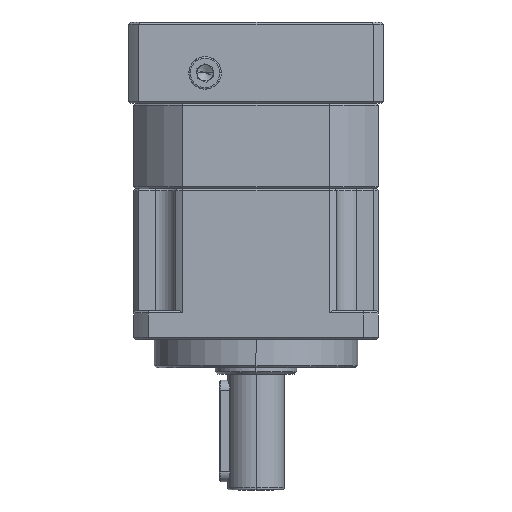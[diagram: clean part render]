
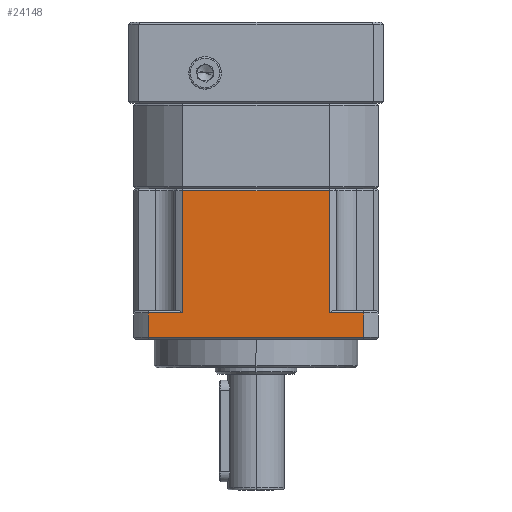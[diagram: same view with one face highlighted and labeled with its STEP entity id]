
A CAD part, left-side view. The second image highlights one B-rep face of the part: STEP entity #24148.
In plain terms, the highlighted planar face has unit normal (-1, 0, 0).
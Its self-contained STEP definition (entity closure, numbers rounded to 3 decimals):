
#211 = CARTESIAN_POINT ( 'NONE',  ( -62.293, -19.087, 111.002 ) ) ;
#816 = EDGE_CURVE ( 'NONE', #52688, #96927, #25697, .T. ) ;
#5810 = CARTESIAN_POINT ( 'NONE',  ( -62.293, -15.545, 80.502 ) ) ;
#6557 = CARTESIAN_POINT ( 'NONE',  ( -62.293, 28.941, 80.502 ) ) ;
#8005 = CARTESIAN_POINT ( 'NONE',  ( -62.293, 37.37, 111.002 ) ) ;
#8380 = DIRECTION ( 'NONE',  ( 0., 0., -1. ) ) ;
#8716 = CARTESIAN_POINT ( 'NONE',  ( -62.293, -19.087, 80.502 ) ) ;
#9077 = DIRECTION ( 'NONE',  ( 0., -1., 0. ) ) ;
#10337 = CARTESIAN_POINT ( 'NONE',  ( -62.293, 28.941, 111.002 ) ) ;
#11004 = LINE ( 'NONE', #30989, #32592 ) ;
#12243 = ORIENTED_EDGE ( 'NONE', *, *, #26304, .F. ) ;
#13672 = DIRECTION ( 'NONE',  ( 0., 1., 0. ) ) ;
#17891 = LINE ( 'NONE', #10337, #101799 ) ;
#18150 = DIRECTION ( 'NONE',  ( 0., 0., -1. ) ) ;
#24148 = ADVANCED_FACE ( 'NONE', ( #41703 ), #56752, .F. ) ;
#25288 = LINE ( 'NONE', #66426, #44342 ) ;
#25697 = LINE ( 'NONE', #8005, #49863 ) ;
#26304 = EDGE_CURVE ( 'NONE', #28815, #60897, #25288, .T. ) ;
#28815 = VERTEX_POINT ( 'NONE', #65783 ) ;
#30795 = AXIS2_PLACEMENT_3D ( 'NONE', #211, #57127, #8380 ) ;
#30989 = CARTESIAN_POINT ( 'NONE',  ( -62.293, -19.087, 80.502 ) ) ;
#32592 = VECTOR ( 'NONE', #87863, 1000. ) ;
#34932 = DIRECTION ( 'NONE',  ( 0., 0., -1. ) ) ;
#35038 = EDGE_CURVE ( 'NONE', #28815, #88060, #85827, .T. ) ;
#35618 = ORIENTED_EDGE ( 'NONE', *, *, #35038, .T. ) ;
#36784 = EDGE_LOOP ( 'NONE', ( #12243, #35618, #77500, #48073, #40349, #85374, #78552, #90318 ) ) ;
#37004 = CARTESIAN_POINT ( 'NONE',  ( -62.293, 37.37, 74.502 ) ) ;
#39035 = LINE ( 'NONE', #8716, #101372 ) ;
#40349 = ORIENTED_EDGE ( 'NONE', *, *, #816, .F. ) ;
#41703 = FACE_OUTER_BOUND ( 'NONE', #36784, .T. ) ;
#44342 = VECTOR ( 'NONE', #18150, 1000. ) ;
#44532 = DIRECTION ( 'NONE',  ( 0., 1., 0. ) ) ;
#45764 = CARTESIAN_POINT ( 'NONE',  ( -62.293, 28.941, 110.502 ) ) ;
#46689 = LINE ( 'NONE', #83643, #89969 ) ;
#46991 = VERTEX_POINT ( 'NONE', #6557 ) ;
#47172 = CARTESIAN_POINT ( 'NONE',  ( -62.293, -15.545, 74.502 ) ) ;
#47196 = CARTESIAN_POINT ( 'NONE',  ( -62.293, 37.37, 80.502 ) ) ;
#48073 = ORIENTED_EDGE ( 'NONE', *, *, #60308, .F. ) ;
#49863 = VECTOR ( 'NONE', #73077, 1000. ) ;
#52688 = VERTEX_POINT ( 'NONE', #37004 ) ;
#55818 = VERTEX_POINT ( 'NONE', #47172 ) ;
#56752 = PLANE ( 'NONE',  #30795 ) ;
#57127 = DIRECTION ( 'NONE',  ( 1., 0., 0. ) ) ;
#59266 = EDGE_CURVE ( 'NONE', #46991, #88060, #17891, .T. ) ;
#60308 = EDGE_CURVE ( 'NONE', #96927, #46991, #11004, .T. ) ;
#60897 = VERTEX_POINT ( 'NONE', #80980 ) ;
#64241 = VECTOR ( 'NONE', #44532, 1000. ) ;
#64330 = LINE ( 'NONE', #102895, #83400 ) ;
#65783 = CARTESIAN_POINT ( 'NONE',  ( -62.293, -7.115, 110.502 ) ) ;
#66138 = VERTEX_POINT ( 'NONE', #5810 ) ;
#66426 = CARTESIAN_POINT ( 'NONE',  ( -62.293, -7.115, 111.002 ) ) ;
#73077 = DIRECTION ( 'NONE',  ( 0., 0., 1. ) ) ;
#75348 = DIRECTION ( 'NONE',  ( 0., 0., 1. ) ) ;
#77500 = ORIENTED_EDGE ( 'NONE', *, *, #59266, .F. ) ;
#77638 = EDGE_CURVE ( 'NONE', #66138, #55818, #46689, .T. ) ;
#78552 = ORIENTED_EDGE ( 'NONE', *, *, #77638, .F. ) ;
#80980 = CARTESIAN_POINT ( 'NONE',  ( -62.293, -7.115, 80.502 ) ) ;
#81644 = EDGE_CURVE ( 'NONE', #60897, #66138, #39035, .T. ) ;
#81963 = EDGE_CURVE ( 'NONE', #55818, #52688, #64330, .T. ) ;
#83400 = VECTOR ( 'NONE', #13672, 1000. ) ;
#83643 = CARTESIAN_POINT ( 'NONE',  ( -62.293, -15.545, 111.002 ) ) ;
#85374 = ORIENTED_EDGE ( 'NONE', *, *, #81963, .F. ) ;
#85827 = LINE ( 'NONE', #93273, #64241 ) ;
#87863 = DIRECTION ( 'NONE',  ( 0., -1., 0. ) ) ;
#88060 = VERTEX_POINT ( 'NONE', #45764 ) ;
#89969 = VECTOR ( 'NONE', #34932, 1000. ) ;
#90318 = ORIENTED_EDGE ( 'NONE', *, *, #81644, .F. ) ;
#93273 = CARTESIAN_POINT ( 'NONE',  ( -62.293, -19.087, 110.502 ) ) ;
#96927 = VERTEX_POINT ( 'NONE', #47196 ) ;
#101372 = VECTOR ( 'NONE', #9077, 1000. ) ;
#101799 = VECTOR ( 'NONE', #75348, 1000. ) ;
#102895 = CARTESIAN_POINT ( 'NONE',  ( -62.293, -19.087, 74.502 ) ) ;
